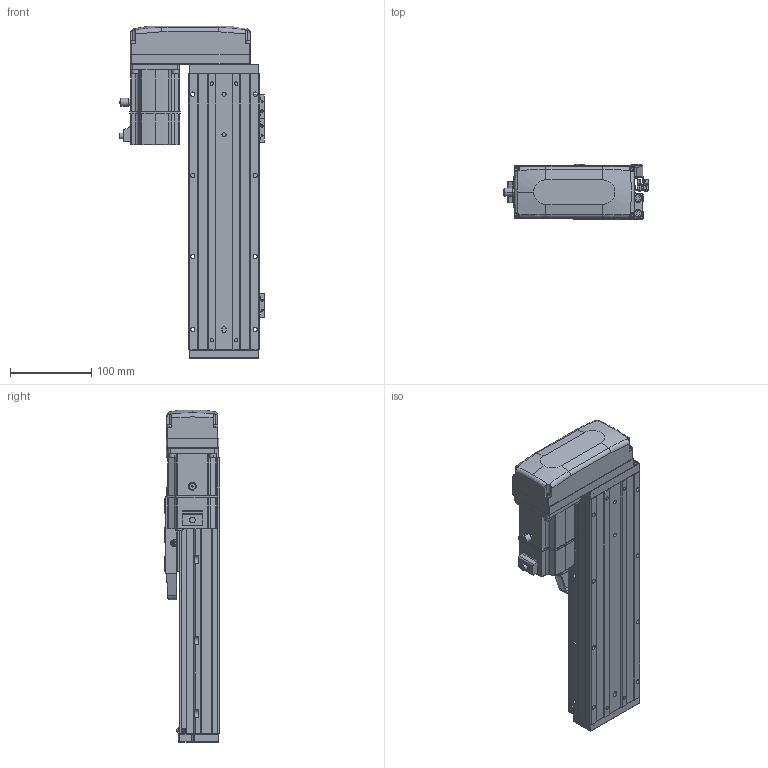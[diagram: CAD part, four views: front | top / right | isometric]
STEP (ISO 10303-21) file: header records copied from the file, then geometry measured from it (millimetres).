
FILE_DESCRIPTION (( 'STEP AP203' ), '1' );
FILE_NAME ('CTHA86-150-BR-M20-C4L.step', '2022-04-26T00:59:00', ( '微软用户' ), ( '微软中国' ), 'SwSTEP 2.0', 'SolidWorks 2020', '' );
FILE_SCHEMA (( 'CONFIG_CONTROL_DESIGN' ));
Length unit declared in the file: millimetre
Products named in the file (21): CTHA60-016; CTHA86-033; CTHA60-021; _X2_4E0983F1_X0_200W_1; CTHA86-150-BR-M20-C4L; KTHA86-001_340; GBT77-2000 M3×3; CTHA86-002; KTHA86-004; GBT 70.1-M3×20; CTHA86-031; KTHA86-005; GBT70.1 M5℅16; CTHA86-030; GB¨uT 70.2-M3¡Á5_M3¡Á6; GBT 70.1-M3×16; GBT 70.3-M3℅6; EE_SX911P_R; GBT 70.1-M3℅6; CTHA86-015-1_CTHA86-015-2; CTHA60-017
Assembly tree (66 placements, depth 2):
  CTHA86-150-BR-M20-C4L
    KTHA86-001_340
    KTHA86-004
    KTHA86-005
    GB¨uT 70.2-M3¡Á5_M3¡Á6  x10
    EE_SX911P_R  x3
    CTHA60-017  x3
    CTHA60-021  x2
    GBT77-2000 M3×3  x6
    GBT 70.1-M3×20
    GBT70.1 M5℅16  x14
    GBT 70.1-M3×16  x5
    GBT 70.1-M3℅6  x6
    CTHA60-016  x2
    _X2_4E0983F1_X0_200W_1
    CTHA86-002
    CTHA86-031
    CTHA86-030  x2
    GBT 70.3-M3℅6  x4
    CTHA86-015-1_CTHA86-015-2
    CTHA86-033
Bounding box: 178.52 x 68 x 409 mm (x, y, z)
Volume: 2051140.4 mm3; surface area: 374910.6 mm2
Topology: 68 solids, 68 shells, 2686 faces, 6372 edges, 3916 vertices
Faces by surface type: plane 1403, cylinder 693, cone 359, torus 132, bspline 75, sphere 24
Entity records: 45851 total; most frequent: CARTESIAN_POINT 8947, DIRECTION 7079, ORIENTED_EDGE 6844, EDGE_CURVE 3422, AXIS2_PLACEMENT_3D 2432, LINE 2215, VECTOR 2215, VERTEX_POINT 2148
